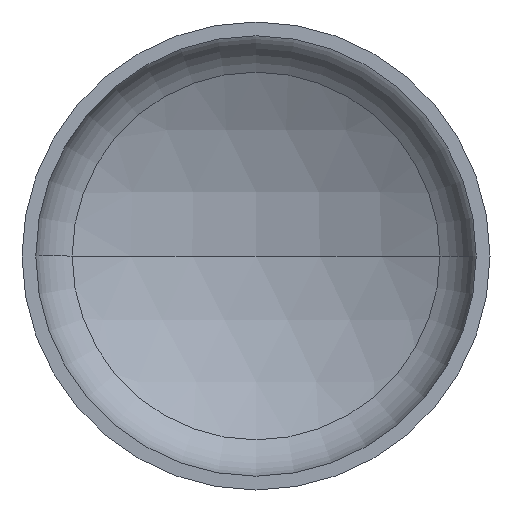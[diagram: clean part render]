
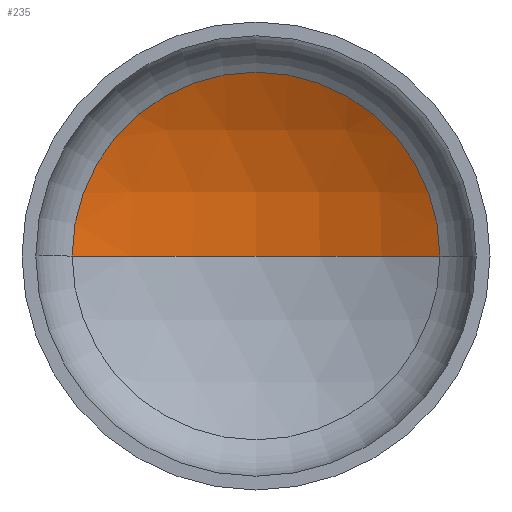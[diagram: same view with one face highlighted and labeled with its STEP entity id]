
A CAD part, front view. The second image highlights one B-rep face of the part: STEP entity #235.
In plain terms, the highlighted spherical face has radius 325 mm.
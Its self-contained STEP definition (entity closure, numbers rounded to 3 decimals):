
#1 = ORIENTED_EDGE ( 'NONE', *, *, #387, .F. ) ;
#13 = EDGE_LOOP ( 'NONE', ( #1, #31, #146 ) ) ;
#19 = DIRECTION ( 'NONE',  ( 0., 0., -1. ) ) ;
#22 = AXIS2_PLACEMENT_3D ( 'NONE', #282, #128, #232 ) ;
#25 = AXIS2_PLACEMENT_3D ( 'NONE', #207, #377, #381 ) ;
#31 = ORIENTED_EDGE ( 'NONE', *, *, #351, .T. ) ;
#32 = VERTEX_POINT ( 'NONE', #347 ) ;
#76 = AXIS2_PLACEMENT_3D ( 'NONE', #398, #19, #331 ) ;
#89 = VERTEX_POINT ( 'NONE', #225 ) ;
#98 = CIRCLE ( 'NONE', #281, 325. ) ;
#128 = DIRECTION ( 'NONE',  ( 0., 0., -1. ) ) ;
#146 = ORIENTED_EDGE ( 'NONE', *, *, #349, .T. ) ;
#151 = VERTEX_POINT ( 'NONE', #291 ) ;
#207 = CARTESIAN_POINT ( 'NONE',  ( 0., 94.003, 0. ) ) ;
#211 = CIRCLE ( 'NONE', #25, 159.658 ) ;
#225 = CARTESIAN_POINT ( 'NONE',  ( 0., 135.923, 0. ) ) ;
#232 = DIRECTION ( 'NONE',  ( -1., 0., 0. ) ) ;
#235 = ADVANCED_FACE ( 'NONE', ( #236 ), #359, .F. ) ;
#236 = FACE_OUTER_BOUND ( 'NONE', #13, .T. ) ;
#240 = DIRECTION ( 'NONE',  ( 0., 0., 1. ) ) ;
#277 = CIRCLE ( 'NONE', #22, 325. ) ;
#281 = AXIS2_PLACEMENT_3D ( 'NONE', #384, #240, #404 ) ;
#282 = CARTESIAN_POINT ( 'NONE',  ( 0., -189.077, 0. ) ) ;
#291 = CARTESIAN_POINT ( 'NONE',  ( 159.658, 94.003, 0. ) ) ;
#331 = DIRECTION ( 'NONE',  ( -1., 0., 0. ) ) ;
#347 = CARTESIAN_POINT ( 'NONE',  ( -159.658, 94.003, 0. ) ) ;
#349 = EDGE_CURVE ( 'NONE', #151, #32, #211, .T. ) ;
#351 = EDGE_CURVE ( 'NONE', #89, #151, #277, .T. ) ;
#359 = SPHERICAL_SURFACE ( 'NONE', #76, 325. ) ;
#377 = DIRECTION ( 'NONE',  ( 0., -1., 0. ) ) ;
#381 = DIRECTION ( 'NONE',  ( 1., 0., 0. ) ) ;
#384 = CARTESIAN_POINT ( 'NONE',  ( 0., -189.077, 0. ) ) ;
#387 = EDGE_CURVE ( 'NONE', #89, #32, #98, .T. ) ;
#398 = CARTESIAN_POINT ( 'NONE',  ( 0., -189.077, 0. ) ) ;
#404 = DIRECTION ( 'NONE',  ( 1., 0., 0. ) ) ;
